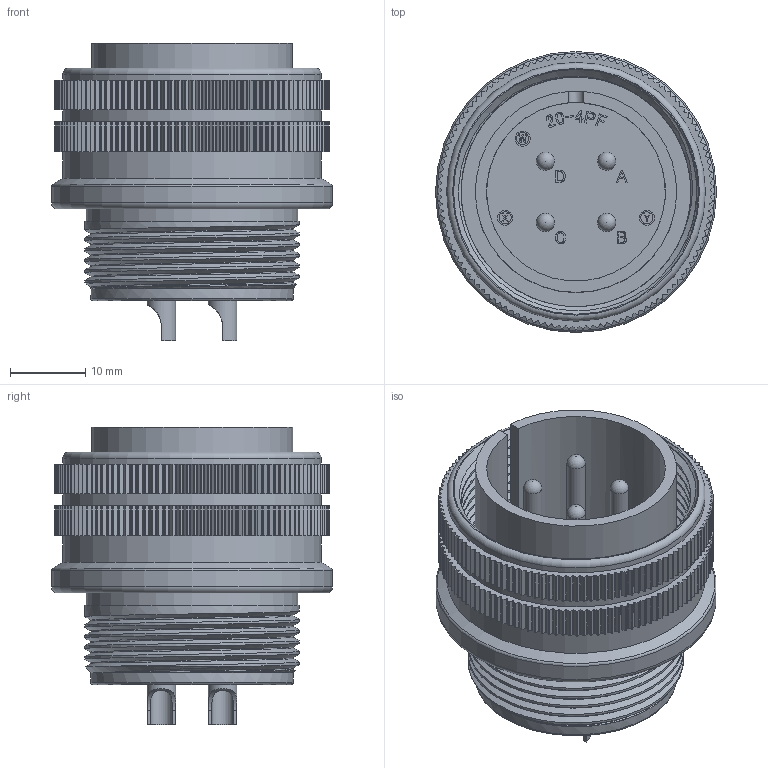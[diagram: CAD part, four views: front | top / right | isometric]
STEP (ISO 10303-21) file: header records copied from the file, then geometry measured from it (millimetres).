
FILE_DESCRIPTION (( 'STEP AP203' ), '1' );
FILE_NAME ('DMS3106A20-4P(D190).STEP', '2020-07-06T04:15:06', ( '' ), ( '' ), 'SwSTEP 2.0', 'SolidWorks 2018', '' );
FILE_SCHEMA (( 'CONFIG_CONTROL_DESIGN' ));
Products named in the file (1): DMS3106A20-4P(D190)
Bounding box: 37.23 x 37.23 x 39.44 mm (x, y, z)
Volume: 15905.8 mm3; surface area: 13888.1 mm2
Topology: 1 solids, 1 shells, 1991 faces, 5744 edges, 3823 vertices
Faces by surface type: cylinder 1031, plane 767, bspline 172, torus 17, cone 4
Full cylindrical faces by diameter (mm): 1.6 x3, 2 x3, 2.41 x4, 2.85 x4, 3.79 x4, 3.9 x4, 20.62 x1, 23.68 x1, 24.71 x1, 26.8 x1, 28.06 x1, 28.48 x4, 28.65 x1, 30.2 x1, 30.67 x1, 30.79 x1, 34.29 x3, 37.23 x1
Entity records: 73604 total; most frequent: CARTESIAN_POINT 20949, ORIENTED_EDGE 11296, DIRECTION 10955, EDGE_CURVE 5648, AXIS2_PLACEMENT_3D 3869, VERTEX_POINT 3784, LINE 3217, VECTOR 3217
